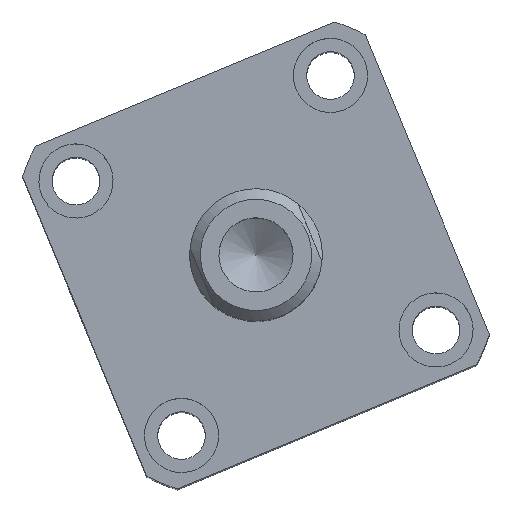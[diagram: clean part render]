
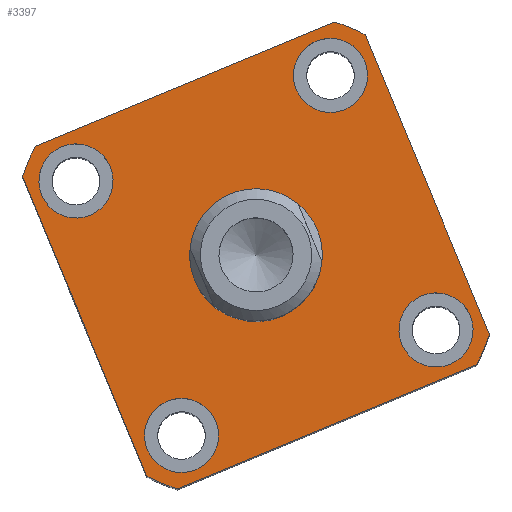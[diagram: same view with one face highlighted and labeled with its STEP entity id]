
A CAD part, top view. The second image highlights one B-rep face of the part: STEP entity #3397.
In plain terms, the highlighted planar face has unit normal (0, 0, 1).
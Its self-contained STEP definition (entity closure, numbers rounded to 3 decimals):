
#3397=ADVANCED_FACE('',(#4177,#4178,#4179,#4180,#4181,#4182),#3831,.F.);
#3831=PLANE('',#11031);
#4177=FACE_BOUND('',#4386,.T.);
#4178=FACE_BOUND('',#4387,.T.);
#4179=FACE_BOUND('',#4388,.T.);
#4180=FACE_BOUND('',#4389,.T.);
#4181=FACE_BOUND('',#4390,.T.);
#4182=FACE_BOUND('',#4391,.T.);
#4386=EDGE_LOOP('',(#6715));
#4387=EDGE_LOOP('',(#6716));
#4388=EDGE_LOOP('',(#6717));
#4389=EDGE_LOOP('',(#6718));
#4390=EDGE_LOOP('',(#6719));
#4391=EDGE_LOOP('',(#6720,#6721,#6722,#6723,#6724,#6725,#6726,#6727));
#4904=LINE('',#13247,#5723);
#4910=LINE('',#13477,#5729);
#4914=LINE('',#13486,#5733);
#4918=LINE('',#13495,#5737);
#5723=VECTOR('',#11421,1.);
#5729=VECTOR('',#11553,1.);
#5733=VECTOR('',#11559,1.);
#5737=VECTOR('',#11565,1.);
#6715=ORIENTED_EDGE('',*,*,#9723,.F.);
#6716=ORIENTED_EDGE('',*,*,#9725,.F.);
#6717=ORIENTED_EDGE('',*,*,#9727,.F.);
#6718=ORIENTED_EDGE('',*,*,#9729,.F.);
#6719=ORIENTED_EDGE('',*,*,#9739,.F.);
#6720=ORIENTED_EDGE('',*,*,#9784,.F.);
#6721=ORIENTED_EDGE('',*,*,#9769,.F.);
#6722=ORIENTED_EDGE('',*,*,#9785,.F.);
#6723=ORIENTED_EDGE('',*,*,#9720,.F.);
#6724=ORIENTED_EDGE('',*,*,#9786,.F.);
#6725=ORIENTED_EDGE('',*,*,#9777,.F.);
#6726=ORIENTED_EDGE('',*,*,#9787,.F.);
#6727=ORIENTED_EDGE('',*,*,#9773,.F.);
#8923=VERTEX_POINT('',#13245);
#8925=VERTEX_POINT('',#13248);
#8927=VERTEX_POINT('',#13254);
#8929=VERTEX_POINT('',#13259);
#8931=VERTEX_POINT('',#13264);
#8933=VERTEX_POINT('',#13269);
#8943=VERTEX_POINT('',#13294);
#8971=VERTEX_POINT('',#13475);
#8973=VERTEX_POINT('',#13478);
#8975=VERTEX_POINT('',#13484);
#8977=VERTEX_POINT('',#13487);
#8979=VERTEX_POINT('',#13493);
#8981=VERTEX_POINT('',#13496);
#9720=EDGE_CURVE('',#8923,#8925,#4904,.T.);
#9723=EDGE_CURVE('',#8927,#8927,#10858,.T.);
#9725=EDGE_CURVE('',#8929,#8929,#10860,.T.);
#9727=EDGE_CURVE('',#8931,#8931,#10862,.T.);
#9729=EDGE_CURVE('',#8933,#8933,#10864,.T.);
#9739=EDGE_CURVE('',#8943,#8943,#10874,.T.);
#9769=EDGE_CURVE('',#8971,#8973,#4910,.T.);
#9773=EDGE_CURVE('',#8975,#8977,#4914,.T.);
#9777=EDGE_CURVE('',#8979,#8981,#4918,.T.);
#9784=EDGE_CURVE('',#8973,#8975,#10903,.T.);
#9785=EDGE_CURVE('',#8925,#8971,#10904,.T.);
#9786=EDGE_CURVE('',#8981,#8923,#10905,.T.);
#9787=EDGE_CURVE('',#8977,#8979,#10906,.T.);
#10858=CIRCLE('',#10957,7.);
#10860=CIRCLE('',#10960,7.);
#10862=CIRCLE('',#10963,7.);
#10864=CIRCLE('',#10966,7.);
#10874=CIRCLE('',#10981,12.5);
#10903=CIRCLE('',#11027,46.5);
#10904=CIRCLE('',#11028,46.5);
#10905=CIRCLE('',#11029,46.5);
#10906=CIRCLE('',#11030,46.5);
#10957=AXIS2_PLACEMENT_3D('',#13253,#11426,#11427);
#10960=AXIS2_PLACEMENT_3D('',#13258,#11432,#11433);
#10963=AXIS2_PLACEMENT_3D('',#13263,#11438,#11439);
#10966=AXIS2_PLACEMENT_3D('',#13268,#11444,#11445);
#10981=AXIS2_PLACEMENT_3D('',#13293,#11474,#11475);
#11027=AXIS2_PLACEMENT_3D('',#13506,#11580,#11581);
#11028=AXIS2_PLACEMENT_3D('',#13507,#11582,#11583);
#11029=AXIS2_PLACEMENT_3D('',#13508,#11584,#11585);
#11030=AXIS2_PLACEMENT_3D('',#13509,#11586,#11587);
#11031=AXIS2_PLACEMENT_3D('',#13510,#11588,#11589);
#11421=DIRECTION('',(0.383,-0.924,0.));
#11426=DIRECTION('',(0.,0.,1.));
#11427=DIRECTION('',(-0.383,0.924,0.));
#11432=DIRECTION('',(0.,0.,1.));
#11433=DIRECTION('',(-0.383,0.924,0.));
#11438=DIRECTION('',(0.,0.,1.));
#11439=DIRECTION('',(-0.383,0.924,0.));
#11444=DIRECTION('',(0.,0.,1.));
#11445=DIRECTION('',(-0.383,0.924,0.));
#11474=DIRECTION('',(0.,0.,1.));
#11475=DIRECTION('',(-0.383,0.924,0.));
#11553=DIRECTION('',(-0.924,-0.383,0.));
#11559=DIRECTION('',(-0.383,0.924,0.));
#11565=DIRECTION('',(0.924,0.383,0.));
#11580=DIRECTION('',(0.,0.,-1.));
#11581=DIRECTION('',(0.383,-0.924,0.));
#11582=DIRECTION('',(0.,0.,-1.));
#11583=DIRECTION('',(0.383,-0.924,0.));
#11584=DIRECTION('',(0.,0.,-1.));
#11585=DIRECTION('',(0.383,-0.924,0.));
#11586=DIRECTION('',(0.,0.,-1.));
#11587=DIRECTION('',(0.383,-0.924,0.));
#11588=DIRECTION('',(0.,0.,-1.));
#11589=DIRECTION('',(-0.383,0.924,0.));
#13245=CARTESIAN_POINT('',(-70.134,52.961,147.455));
#13247=CARTESIAN_POINT('',(-71.814,57.012,147.455));
#13248=CARTESIAN_POINT('',(-46.68,-3.598,147.455));
#13253=CARTESIAN_POINT('',(-104.795,-22.701,147.455));
#13254=CARTESIAN_POINT('',(-107.477,-16.235,147.455));
#13258=CARTESIAN_POINT('',(-56.761,-2.783,147.455));
#13259=CARTESIAN_POINT('',(-59.443,3.683,147.455));
#13263=CARTESIAN_POINT('',(-76.68,45.251,147.455));
#13264=CARTESIAN_POINT('',(-79.361,51.717,147.455));
#13268=CARTESIAN_POINT('',(-124.714,25.332,147.455));
#13269=CARTESIAN_POINT('',(-127.395,31.799,147.455));
#13293=CARTESIAN_POINT('',(-90.738,11.275,147.455));
#13294=CARTESIAN_POINT('',(-95.526,22.821,147.455));
#13475=CARTESIAN_POINT('',(-49.051,-9.329,147.455));
#13477=CARTESIAN_POINT('',(-109.661,-34.462,147.455));
#13478=CARTESIAN_POINT('',(-105.61,-32.783,147.455));
#13484=CARTESIAN_POINT('',(-111.341,-30.411,147.455));
#13486=CARTESIAN_POINT('',(-136.475,30.199,147.455));
#13487=CARTESIAN_POINT('',(-134.795,26.148,147.455));
#13493=CARTESIAN_POINT('',(-132.424,31.878,147.455));
#13495=CARTESIAN_POINT('',(-136.475,30.199,147.455));
#13496=CARTESIAN_POINT('',(-75.865,55.332,147.455));
#13506=CARTESIAN_POINT('',(-90.738,11.275,147.455));
#13507=CARTESIAN_POINT('',(-90.738,11.275,147.455));
#13508=CARTESIAN_POINT('',(-90.738,11.275,147.455));
#13509=CARTESIAN_POINT('',(-90.738,11.275,147.455));
#13510=CARTESIAN_POINT('',(-90.738,11.275,147.455));
